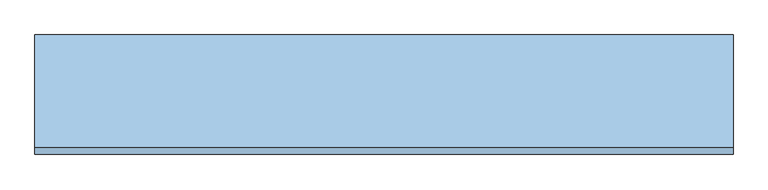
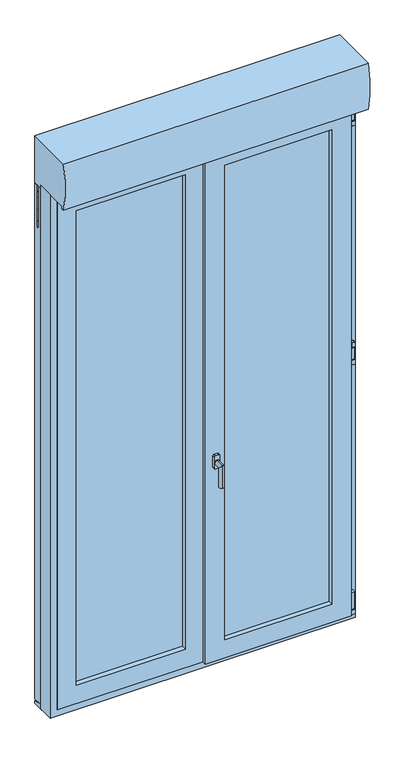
"""IFC4 building model written with IfcOpenShell, lengths in millimetres: window geometry, 23. PF1 + Fixe à G ENR PVC-ALU : 260X236 (LXH) cm."""

from ifc_helpers import new_model, si_unit, point, frame, frame_2d, origin, place, context, project, spatial, polyline, circle_curve, ellipse_curve, trimmed, segment, composite_curve, outline, extrude, faceted_brep, source, transform, mapped, element, save
from ifc_brep_helpers import plane_surface, cylinder_surface, advanced_brep


def window_ddca230f(model_context):
    return source(origin(), model_context, "Body", "SolidModel", [
        extrude(outline(composite_curve([segment(polyline([(1233.7215382, 626.56), (1233.7215382, 641.56), (1251.7279213, 641.56)]), True, "CONTINUOUS"), segment(trimmed(circle_curve(frame_2d((1251.7279213, 639.5663831)), 1.9936169), [point((1251.7279213, 641.56))], [point((1253.7215382, 639.5663831))], False, "CARTESIAN"), True, "CONTINUOUS"), segment(polyline([(1253.7215382, 639.5663831), (1253.7215382, 628.5276754)]), True, "CONTINUOUS"), segment(trimmed(circle_curve(frame_2d((1251.7538628, 628.5276754)), 1.9676754), [point((1253.7215382, 628.5276754))], [point((1251.7538628, 626.56))], False, "CARTESIAN"), True, "CONTINUOUS"), segment(polyline([(1251.7538628, 626.56), (1233.7215382, 626.56)]), True, "CONTINUOUS")], self_intersect=False)), frame((0.0, -115.0338923, 0.0), z_axis=(0.0, 1.0, 0.0), x_axis=(0.0, 0.0, 1.0)), (0.0, 0.0, 1.0), 15.0),
        extrude(outline(composite_curve([segment(trimmed(circle_curve(frame_2d((634.2805562, -107.5434807)), 5.0), [point((629.2805562, -107.5434807))], [point((639.2805562, -107.5434807))], False, "CARTESIAN"), True, "CONTINUOUS"), segment(trimmed(circle_curve(frame_2d((634.2805562, -107.5434807)), 5.0), [point((639.2805562, -107.5434807))], [point((629.2805562, -107.5434807))], False, "CARTESIAN"), True, "CONTINUOUS")], self_intersect=False)), frame((0.0, 0.0, 1173.7215382), z_axis=(0.0, 0.0, 1.0), x_axis=(1.0, 0.0, 0.0)), (0.0, 0.0, 1.0), 60.0),
        extrude(outline(composite_curve([segment(polyline([(621.56, -100.0434807), (639.6018237, -100.0434807)]), True, "CONTINUOUS"), segment(trimmed(circle_curve(frame_2d((639.6018237, -102.001657)), 1.9581763), [point((639.6018237, -100.0434807))], [point((641.56, -102.001657))], False, "CARTESIAN"), True, "CONTINUOUS"), segment(polyline([(641.56, -102.001657), (641.56, -113.0253033)]), True, "CONTINUOUS"), segment(trimmed(circle_curve(frame_2d((639.5418225, -113.0253033)), 2.0181775), [point((641.56, -113.0253033))], [point((639.5418225, -115.0434807))], False, "CARTESIAN"), True, "CONTINUOUS"), segment(polyline([(639.5418225, -115.0434807), (621.56, -115.0434807), (621.56, -100.0434807)]), True, "CONTINUOUS")], self_intersect=False)), frame((0.0, 0.0, 1179.448), z_axis=(0.0, 0.0, 1.0), x_axis=(1.0, 0.0, 0.0)), (0.0, 0.0, 1.0), 50.0),
        extrude(outline(composite_curve([segment(polyline([(1174.448, 641.7805562), (1174.448, 626.7805562), (1156.4572498, 626.7805562)]), True, "CONTINUOUS"), segment(trimmed(circle_curve(frame_2d((1156.4572498, 628.7898059)), 2.0092498), [point((1156.4572498, 626.7805562))], [point((1154.448, 628.7898059))], False, "CARTESIAN"), True, "CONTINUOUS"), segment(polyline([(1154.448, 628.7898059), (1154.448, 640.1303507)]), True, "CONTINUOUS"), segment(trimmed(circle_curve(frame_2d((1156.4216694, 639.8068867)), 2.0), [point((1154.448, 640.1303507))], [point((1156.0982054, 641.7805562))], False, "CARTESIAN"), True, "CONTINUOUS"), segment(polyline([(1156.0982054, 641.7805562), (1174.448, 641.7805562)]), True, "CONTINUOUS")], self_intersect=False)), frame((0.0, -115.0338923, 0.0), z_axis=(0.0, 1.0, 0.0), x_axis=(0.0, 0.0, 1.0)), (0.0, 0.0, 1.0), 15.0),
        extrude(outline(composite_curve([segment(polyline([(2310.8255382, 626.56), (2310.8255382, 641.56), (2328.8319213, 641.56)]), True, "CONTINUOUS"), segment(trimmed(circle_curve(frame_2d((2328.8319213, 639.5663831)), 1.9936169), [point((2328.8319213, 641.56))], [point((2330.8255382, 639.5663831))], False, "CARTESIAN"), True, "CONTINUOUS"), segment(polyline([(2330.8255382, 639.5663831), (2330.8255382, 628.5276754)]), True, "CONTINUOUS"), segment(trimmed(circle_curve(frame_2d((2328.8578628, 628.5276754)), 1.9676754), [point((2330.8255382, 628.5276754))], [point((2328.8578628, 626.56))], False, "CARTESIAN"), True, "CONTINUOUS"), segment(polyline([(2328.8578628, 626.56), (2310.8255382, 626.56)]), True, "CONTINUOUS")], self_intersect=False)), frame((0.0, -115.0338923, 0.0), z_axis=(0.0, 1.0, 0.0), x_axis=(0.0, 0.0, 1.0)), (0.0, 0.0, 1.0), 15.0),
        extrude(outline(composite_curve([segment(trimmed(circle_curve(frame_2d((634.2805562, -107.5434807)), 5.0), [point((629.2805562, -107.5434807))], [point((639.2805562, -107.5434807))], False, "CARTESIAN"), True, "CONTINUOUS"), segment(trimmed(circle_curve(frame_2d((634.2805562, -107.5434807)), 5.0), [point((639.2805562, -107.5434807))], [point((629.2805562, -107.5434807))], False, "CARTESIAN"), True, "CONTINUOUS")], self_intersect=False)), frame((0.0, 0.0, 2250.8255382), z_axis=(0.0, 0.0, 1.0), x_axis=(1.0, 0.0, 0.0)), (0.0, 0.0, 1.0), 60.0),
        extrude(outline(composite_curve([segment(polyline([(621.56, -100.0434807), (639.6018237, -100.0434807)]), True, "CONTINUOUS"), segment(trimmed(circle_curve(frame_2d((639.6018237, -102.001657)), 1.9581763), [point((639.6018237, -100.0434807))], [point((641.56, -102.001657))], False, "CARTESIAN"), True, "CONTINUOUS"), segment(polyline([(641.56, -102.001657), (641.56, -113.0253033)]), True, "CONTINUOUS"), segment(trimmed(circle_curve(frame_2d((639.5418225, -113.0253033)), 2.0181775), [point((641.56, -113.0253033))], [point((639.5418225, -115.0434807))], False, "CARTESIAN"), True, "CONTINUOUS"), segment(polyline([(639.5418225, -115.0434807), (621.56, -115.0434807), (621.56, -100.0434807)]), True, "CONTINUOUS")], self_intersect=False)), frame((0.0, 0.0, 2256.552), z_axis=(0.0, 0.0, 1.0), x_axis=(1.0, 0.0, 0.0)), (0.0, 0.0, 1.0), 50.0),
        extrude(outline(composite_curve([segment(polyline([(2251.552, 641.7805562), (2251.552, 626.7805562), (2233.5612498, 626.7805562)]), True, "CONTINUOUS"), segment(trimmed(circle_curve(frame_2d((2233.5612498, 628.7898059)), 2.0092498), [point((2233.5612498, 626.7805562))], [point((2231.552, 628.7898059))], False, "CARTESIAN"), True, "CONTINUOUS"), segment(polyline([(2231.552, 628.7898059), (2231.552, 640.1303507)]), True, "CONTINUOUS"), segment(trimmed(circle_curve(frame_2d((2233.5256694, 639.8068867)), 2.0), [point((2231.552, 640.1303507))], [point((2233.2022054, 641.7805562))], False, "CARTESIAN"), True, "CONTINUOUS"), segment(polyline([(2233.2022054, 641.7805562), (2251.552, 641.7805562)]), True, "CONTINUOUS")], self_intersect=False)), frame((0.0, -115.0338923, 0.0), z_axis=(0.0, 1.0, 0.0), x_axis=(0.0, 0.0, 1.0)), (0.0, 0.0, 1.0), 15.0),
        extrude(outline(composite_curve([segment(trimmed(circle_curve(frame_2d((634.2805562, -107.5434807)), 5.0), [point((629.2805562, -107.5434807))], [point((639.2805562, -107.5434807))], False, "CARTESIAN"), True, "CONTINUOUS"), segment(trimmed(circle_curve(frame_2d((634.2805562, -107.5434807)), 5.0), [point((639.2805562, -107.5434807))], [point((629.2805562, -107.5434807))], False, "CARTESIAN"), True, "CONTINUOUS")], self_intersect=False)), frame((0.0, 0.0, 48.448), z_axis=(0.0, 0.0, 1.0), x_axis=(1.0, 0.0, 0.0)), (0.0, 0.0, 1.0), 5.0),
        extrude(outline(composite_curve([segment(polyline([(48.448, 641.7805562), (48.448, 626.7805562), (30.4572498, 626.7805562)]), True, "CONTINUOUS"), segment(trimmed(circle_curve(frame_2d((30.4572498, 628.7898059)), 2.0092498), [point((30.4572498, 626.7805562))], [point((28.448, 628.7898059))], False, "CARTESIAN"), True, "CONTINUOUS"), segment(polyline([(28.448, 628.7898059), (28.448, 640.1303507)]), True, "CONTINUOUS"), segment(trimmed(circle_curve(frame_2d((30.4216694, 639.8068867)), 2.0), [point((28.448, 640.1303507))], [point((30.0982054, 641.7805562))], False, "CARTESIAN"), True, "CONTINUOUS"), segment(polyline([(30.0982054, 641.7805562), (48.448, 641.7805562)]), True, "CONTINUOUS")], self_intersect=False)), frame((0.0, -115.0338923, 0.0), z_axis=(0.0, 1.0, 0.0), x_axis=(0.0, 0.0, 1.0)), (0.0, 0.0, 1.0), 15.0),
        extrude(outline(composite_curve([segment(polyline([(621.56, -100.0434807), (639.6018237, -100.0434807)]), True, "CONTINUOUS"), segment(trimmed(circle_curve(frame_2d((639.6018237, -102.001657)), 1.9581763), [point((639.6018237, -100.0434807))], [point((641.56, -102.001657))], False, "CARTESIAN"), True, "CONTINUOUS"), segment(polyline([(641.56, -102.001657), (641.56, -113.0253033)]), True, "CONTINUOUS"), segment(trimmed(circle_curve(frame_2d((639.5418225, -113.0253033)), 2.0181775), [point((641.56, -113.0253033))], [point((639.5418225, -115.0434807))], False, "CARTESIAN"), True, "CONTINUOUS"), segment(polyline([(639.5418225, -115.0434807), (621.56, -115.0434807), (621.56, -100.0434807)]), True, "CONTINUOUS")], self_intersect=False)), frame((0.0, 0.0, 53.448), z_axis=(0.0, 0.0, 1.0), x_axis=(1.0, 0.0, 0.0)), (0.0, 0.0, 1.0), 75.0),
        advanced_brep(
        [(51.5, -129.3239543, 961.448), (36.5, -129.3239543, 961.448), (31.5, -129.3239543, 956.448), (31.5, -129.3239543, 906.448), (36.5, -129.3239543, 901.448), (51.5, -129.3239543, 901.448), (56.5, -129.3239543, 906.448), (56.5, -129.3239543, 956.448), (44.2771873, -129.3239543, 939.2518349), (44.2771873, -129.3239543, 919.2518349), (51.5, -117.4674689, 961.448), (56.5, -117.4674689, 956.448), (56.5, -117.4674689, 906.448), (51.5, -117.4674689, 901.448), (36.5, -117.4674689, 901.448), (31.5, -117.4674689, 906.448), (31.5, -117.4674689, 956.448), (36.5, -117.4674689, 961.448), (44.2771873, -133.0531938, 919.2518349), (44.2771873, -133.0531938, 939.2518349), (44.2771873, -173.0531938, 939.2518349), (44.2771873, -153.0531938, 919.2518349), (44.2771873, -173.0531938, 839.2518349), (44.2771873, -153.0531938, 839.2518349)],
        [
            (0, 1),
            (1, 2, circle_curve(frame((36.5, -129.3239543, 956.448), z_axis=(0.0, -1.0, 0.0), x_axis=(-1.0, 0.0, 0.0)), 5.0)),
            (2, 3),
            (3, 4, circle_curve(frame((36.5, -129.3239543, 906.448), z_axis=(0.0, -1.0, 0.0), x_axis=(-1.0, 0.0, 0.0)), 5.0)),
            (4, 5),
            (5, 6, circle_curve(frame((51.5, -129.3239543, 906.448), z_axis=(0.0, -1.0, 0.0), x_axis=(-1.0, 0.0, 0.0)), 5.0)),
            (6, 7),
            (7, 0, circle_curve(frame((51.5, -129.3239543, 956.448), z_axis=(0.0, -1.0, 0.0), x_axis=(-1.0, 0.0, 0.0)), 5.0)),
            (8, 9, circle_curve(frame((44.2771873, -129.3239543, 929.2518349), z_axis=(0.0, 1.0, 0.0), x_axis=(0.0, 0.0, -1.0)), 10.0)),
            (9, 8, circle_curve(frame((44.2771873, -129.3239543, 929.2518349), z_axis=(0.0, 1.0, 0.0), x_axis=(0.0, 0.0, -1.0)), 10.0)),
            (10, 11, circle_curve(frame((51.5, -117.4674689, 956.448), z_axis=(0.0, 1.0, 0.0), x_axis=(-1.0, 0.0, 0.0)), 5.0)),
            (11, 12),
            (12, 13, circle_curve(frame((51.5, -117.4674689, 906.448), z_axis=(0.0, 1.0, 0.0), x_axis=(-1.0, 0.0, 0.0)), 5.0)),
            (13, 14),
            (14, 15, circle_curve(frame((36.5, -117.4674689, 906.448), z_axis=(0.0, 1.0, 0.0), x_axis=(-1.0, 0.0, 0.0)), 5.0)),
            (15, 16),
            (16, 17, circle_curve(frame((36.5, -117.4674689, 956.448), z_axis=(0.0, 1.0, 0.0), x_axis=(-1.0, 0.0, 0.0)), 5.0)),
            (17, 10),
            (7, 11),
            (10, 0),
            (6, 12),
            (5, 13),
            (4, 14),
            (3, 15),
            (2, 16),
            (1, 17),
            (18, 19, circle_curve(frame((44.2771873, -133.0531938, 929.2518349), z_axis=(0.0, -1.0, 0.0), x_axis=(0.0, 0.0, -1.0)), 10.0)),
            (19, 20),
            (20, 21, ellipse_curve(frame((44.2771873, -163.0531938, 929.2518349), z_axis=(0.0, 0.7071067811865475, 0.7071067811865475), x_axis=(0.0, 0.7071067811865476, -0.7071067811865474)), 14.1421356, 10.0)),
            (21, 18),
            (19, 18, circle_curve(frame((44.2771873, -133.0531938, 929.2518349), z_axis=(0.0, -1.0, 0.0), x_axis=(0.0, 0.0, -1.0)), 10.0)),
            (21, 20, ellipse_curve(frame((44.2771873, -163.0531938, 929.2518349), z_axis=(0.0, 0.7071067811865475, 0.7071067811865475), x_axis=(0.0, 0.7071067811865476, -0.7071067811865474)), 14.1421356, 10.0)),
            (22, 23, circle_curve(frame((44.2771873, -163.0531938, 839.2518349), z_axis=(0.0, 0.0, -1.0), x_axis=(0.0, 1.0, 0.0)), 10.0)),
            (23, 22, circle_curve(frame((44.2771873, -163.0531938, 839.2518349), z_axis=(0.0, 0.0, -1.0), x_axis=(0.0, 1.0, 0.0)), 10.0)),
            (20, 22),
            (23, 21),
            (18, 9),
            (8, 19),
        ],
        [
            plane_surface(frame((46.5, -129.3239543, 956.448), z_axis=(0.0, -1.0, 0.0), x_axis=(0.0, 0.0, -1.0))),
            plane_surface(frame((46.5, -117.4674689, 956.448), z_axis=(0.0, 1.0, 0.0), x_axis=(0.0, 0.0, 1.0))),
            cylinder_surface(frame((51.5, -129.3239543, 956.448), z_axis=(0.0, 1.0, 0.0), x_axis=(-1.0, 0.0, 0.0)), 5.0),
            plane_surface(frame((56.5, -117.4674689, 956.448), z_axis=(1.0, 0.0, 0.0), x_axis=(0.0, -1.0, 0.0))),
            cylinder_surface(frame((51.5, -129.3239543, 906.448), z_axis=(0.0, 1.0, 0.0), x_axis=(-1.0, 0.0, 0.0)), 5.0),
            plane_surface(frame((51.5, -117.4674689, 901.448), z_axis=(0.0, 0.0, -1.0), x_axis=(0.0, -1.0, 0.0))),
            cylinder_surface(frame((36.5, -129.3239543, 906.448), z_axis=(0.0, 1.0, 0.0), x_axis=(-1.0, 0.0, 0.0)), 5.0),
            plane_surface(frame((31.5, -117.4674689, 906.448), z_axis=(-1.0, 0.0, 0.0), x_axis=(0.0, -1.0, 0.0))),
            cylinder_surface(frame((36.5, -129.3239543, 956.448), z_axis=(0.0, 1.0, 0.0), x_axis=(-1.0, 0.0, 0.0)), 5.0),
            plane_surface(frame((36.5, -117.4674689, 961.448), z_axis=(0.0, 0.0, 1.0), x_axis=(0.0, -1.0, 0.0))),
            cylinder_surface(frame((44.2771873, -133.0531938, 929.2518349), z_axis=(0.0, 1.0, 0.0), x_axis=(0.0, 0.0, -1.0)), 10.0),
            plane_surface(frame((56.5, -163.0531938, 839.2518349), z_axis=(0.0, 0.0, -1.0), x_axis=(1.0, 0.0, 0.0))),
            cylinder_surface(frame((44.2771873, -163.0531938, 929.2518349), z_axis=(0.0, 0.0, 1.0), x_axis=(0.0, 1.0, 0.0)), 10.0),
            cylinder_surface(frame((44.2771873, -129.3239543, 929.2518349), z_axis=(0.0, 1.0, 0.0), x_axis=(0.0, 0.0, -1.0)), 10.0),
        ],
        [
            (0, [[1, 2, 3, 4, 5, 6, 7, 8], [9, 10]]),
            (1, [[11, 12, 13, 14, 15, 16, 17, 18]]),
            (2, [[-8, 19, -11, 20]]),
            (3, [[-7, 21, -12, -19]]),
            (4, [[-6, 22, -13, -21]]),
            (5, [[-5, 23, -14, -22]]),
            (6, [[-4, 24, -15, -23]]),
            (7, [[-3, 25, -16, -24]]),
            (8, [[-2, 26, -17, -25]]),
            (9, [[-1, -20, -18, -26]]),
            (10, [[27, 28, 29, 30]]),
            (10, [[-28, 31, -30, 32]]),
            (11, [[33, 34]]),
            (12, [[-29, 35, -34, 36]]),
            (12, [[-32, -36, -33, -35]]),
            (13, [[-27, 37, -9, 38]]),
            (13, [[-31, -38, -10, -37]]),
        ],
    ),
        faceted_brep([(-650.0, -100.02, 2360.0), (-650.0, -28.9, 2360.0), (-650.0, -28.9, 0.0), (-650.0, -100.02, 0.0), (650.0, -28.9, 2360.0), (650.0, -28.9, 0.0), (-592.0983858, -28.9, 57.9016142), (592.0983858, -28.9, 57.9016142), (592.0983858, -28.9, 2302.0983858), (-592.0983858, -28.9, 2302.0983858), (650.0, -100.02, 0.0), (650.0, -100.02, 2360.0), (-613.424, -100.02, 2323.424), (613.424, -100.02, 2323.424), (613.424, -100.02, 36.576), (-613.424, -100.02, 36.576), (-613.424, -44.648, 2323.424), (-613.424, -44.648, 36.576), (613.424, -44.648, 36.576), (613.424, -44.648, 2323.424), (-592.0983858, -44.648, 2302.0983858), (592.0983858, -44.648, 2302.0983858), (592.0983858, -44.648, 57.9016142), (-592.0983858, -44.648, 57.9016142)], [[[0, 1, 2, 3]], [[1, 4, 5, 2], [6, 7, 8, 9]], [[3, 2, 5, 10]], [[3, 10, 11, 0], [12, 13, 14, 15]], [[16, 12, 15, 17]], [[17, 15, 14, 18]], [[17, 18, 19, 16], [20, 21, 22, 23]], [[9, 20, 23, 6]], [[6, 23, 22, 7]], [[10, 5, 4, 11]], [[18, 14, 13, 19]], [[7, 22, 21, 8]], [[11, 4, 1, 0]], [[19, 13, 12, 16]], [[8, 21, 20, 9]]]),
        extrude(outline(polyline([(35.0045299, -28.9), (35.0045299, -44.648), (20.324, -44.648), (20.324, -100.0), (8.132, -100.0), (8.132, -44.648), (-21.3216142, -44.648), (-21.3216142, -28.9), (35.0045299, -28.9)])), frame((0.0, 0.0, 57.9016142), z_axis=(0.0, 0.0, 1.0), x_axis=(1.0, 0.0, 0.0)), (0.0, 0.0, 1.0), 2244.1),
        faceted_brep([(-21.2576142, -28.9, 2302.0983858), (-21.2576142, -44.648, 2302.0983858), (-21.2576142, -44.648, 57.9016142), (-21.2576142, -28.9, 57.9016142), (8.196, -44.648, 28.448), (-621.56, -44.648, 28.448), (-621.56, -44.648, 2331.552), (8.196, -44.648, 2331.552), (-592.1063858, -44.648, 2302.0983858), (-592.1063858, -44.648, 57.9016142), (-592.1063858, -28.9, 57.9016142), (-592.1063858, -28.9, 2302.0983858), (-73.8319508, -28.9, 2249.5240492), (-539.5320492, -28.9, 2249.5240492), (-539.5320492, -28.9, 110.4759508), (-73.8319508, -28.9, 110.4759508), (-539.5320492, -50.2048765, 110.4759508), (-539.5320492, -50.2048765, 2249.5240492), (-73.8319508, -50.2048765, 110.4759508), (-73.8319508, -50.2048765, 2249.5240492), (8.196, -100.963906, 28.448), (-621.56, -100.963906, 28.448), (-621.56, -100.963906, 2331.552), (8.196, -100.963906, 2331.552), (-73.8319508, -100.963906, 110.4759508), (-539.5320492, -100.963906, 110.4759508), (-539.5320492, -100.963906, 2249.5240492), (-73.8319508, -100.963906, 2249.5240492), (-73.8319508, -78.213906, 110.4759508), (-539.5320492, -78.213906, 110.4759508), (-539.5320492, -78.213906, 2249.5240492), (-73.8319508, -78.213906, 2249.5240492), (-59.9384883, -50.2048765, 2263.4175117), (-553.4255117, -50.2048765, 2263.4175117), (-553.4255117, -50.2048765, 96.5824883), (-59.9384883, -50.2048765, 96.5824883), (-59.9384883, -54.213906, 2263.4175117), (-59.9384883, -54.213906, 96.5824883), (-553.4255117, -54.213906, 96.5824883), (-553.4255117, -54.213906, 2263.4175117), (-73.8319508, -54.213906, 2249.5240492), (-539.5320492, -54.213906, 2249.5240492), (-539.5320492, -54.213906, 110.4759508), (-73.8319508, -54.213906, 110.4759508), (-59.9384883, -78.213906, 2263.4175117), (-59.9384883, -74.213906, 2263.4175117), (-59.9384883, -74.213906, 96.5824883), (-59.9384883, -78.213906, 96.5824883), (-553.4255117, -74.213906, 2263.4175117), (-553.4255117, -74.213906, 96.5824883), (-73.8319508, -74.213906, 110.4759508), (-539.5320492, -74.213906, 110.4759508), (-539.5320492, -74.213906, 2249.5240492), (-73.8319508, -74.213906, 2249.5240492), (-553.4255117, -78.213906, 96.5824883), (-553.4255117, -78.213906, 2263.4175117)], [[[0, 1, 2, 3]], [[4, 5, 6, 7], [1, 8, 9, 2]], [[3, 2, 9, 10]], [[3, 10, 11, 0], [12, 13, 14, 15]], [[10, 9, 8, 11]], [[16, 14, 13, 17]], [[18, 15, 14, 16]], [[19, 12, 15, 18]], [[4, 20, 21, 5]], [[5, 21, 22, 6]], [[23, 20, 4, 7]], [[23, 22, 21, 20], [24, 25, 26, 27]], [[24, 28, 29, 25]], [[25, 29, 30, 26]], [[27, 31, 28, 24]], [[32, 33, 34, 35], [18, 16, 17, 19]], [[36, 32, 35, 37]], [[37, 35, 34, 38]], [[37, 38, 39, 36], [40, 41, 42, 43]], [[44, 45, 46, 47]], [[45, 48, 49, 46], [50, 51, 52, 53]], [[47, 46, 49, 54]], [[47, 54, 55, 44], [31, 30, 29, 28]], [[38, 34, 33, 39]], [[54, 49, 48, 55]], [[51, 42, 41, 52]], [[50, 43, 42, 51]], [[53, 40, 43, 50]], [[11, 8, 1, 0]], [[6, 22, 23, 7]], [[17, 13, 12, 19]], [[39, 33, 32, 36]], [[55, 48, 45, 44]], [[52, 41, 40, 53]], [[26, 30, 31, 27]]]),
        faceted_brep([(0.004, -119.3239543, 28.448), (0.004, -100.0434807, 28.448), (621.56, -100.0434807, 28.448), (621.56, -119.3239543, 28.448), (621.56, -100.0434807, 2331.552), (621.56, -119.3239543, 2331.552), (0.004, -100.0434807, 2331.552), (601.24, -100.0434807, 2311.232), (20.324, -100.0434807, 2311.232), (20.324, -100.0434807, 48.768), (601.24, -100.0434807, 48.768), (0.004, -119.3239543, 2331.552), (539.3585043, -119.3239543, 110.6494957), (82.2054957, -119.3239543, 110.6494957), (82.2054957, -119.3239543, 2249.3505043), (539.3585043, -119.3239543, 2249.3505043), (82.2054957, -100.019954, 110.6494957), (539.3585043, -100.019954, 110.6494957), (539.3585043, -100.019954, 2249.3505043), (561.6166701, -100.019954, 88.3913299), (59.9473299, -100.019954, 88.3913299), (59.9473299, -100.019954, 2271.6086701), (561.6166701, -100.019954, 2271.6086701), (82.2054957, -100.019954, 2249.3505043), (59.9473299, -48.2039543, 88.3913299), (561.6166701, -48.2039543, 88.3913299), (561.6166701, -48.2039543, 2271.6086701), (592.1063858, -48.2039543, 57.9016142), (29.4576142, -48.2039543, 57.9016142), (29.4576142, -48.2039543, 2302.0983858), (592.1063858, -48.2039543, 2302.0983858), (59.9473299, -48.2039543, 2271.6086701), (29.4576142, -44.648, 57.9016142), (592.1063858, -44.648, 57.9016142), (592.1063858, -44.648, 2302.0983858), (601.24, -44.648, 48.768), (20.324, -44.648, 48.768), (20.324, -44.648, 2311.232), (601.24, -44.648, 2311.232), (29.4576142, -44.648, 2302.0983858)], [[[0, 1, 2, 3]], [[3, 2, 4, 5]], [[2, 1, 6, 4], [7, 8, 9, 10]], [[5, 11, 0, 3], [12, 13, 14, 15]], [[16, 13, 12, 17]], [[17, 12, 15, 18]], [[19, 20, 21, 22], [18, 23, 16, 17]], [[24, 20, 19, 25]], [[25, 19, 22, 26]], [[27, 28, 29, 30], [26, 31, 24, 25]], [[32, 28, 27, 33]], [[33, 27, 30, 34]], [[35, 36, 37, 38], [34, 39, 32, 33]], [[9, 36, 35, 10]], [[10, 35, 38, 7]], [[11, 6, 1, 0]], [[23, 14, 13, 16]], [[31, 21, 20, 24]], [[39, 29, 28, 32]], [[8, 37, 36, 9]], [[5, 4, 6, 11]], [[34, 30, 29, 39]], [[7, 38, 37, 8]], [[18, 15, 14, 23]], [[26, 22, 21, 31]]]),
        extrude(outline(polyline([(-553.4, -54.213906), (-553.4, -50.2048765), (-59.9, -50.2048765), (-59.9, -54.213906), (-553.4, -54.213906)])), frame((0.0, 0.0, 96.5824883), z_axis=(0.0, 0.0, 1.0), x_axis=(1.0, 0.0, 0.0)), (0.0, 0.0, 1.0), 2166.8350233),
        extrude(outline(polyline([(-553.4, -78.2229356), (-553.4, -74.213906), (-59.9, -74.213906), (-59.9, -78.2229356), (-553.4, -78.2229356)])), frame((0.0, 0.0, 96.5824883), z_axis=(0.0, 0.0, 1.0), x_axis=(1.0, 0.0, 0.0)), (0.0, 0.0, 1.0), 2166.8350233),
        extrude(outline(polyline([(553.4, -42.025765), (553.4, -45.9821328), (68.1, -45.9821328), (68.1, -42.025765), (553.4, -42.025765)])), frame((0.0, 0.0, 96.5824883), z_axis=(0.0, 0.0, 1.0), x_axis=(1.0, 0.0, 0.0)), (0.0, 0.0, 1.0), 2166.8350233),
        extrude(outline(polyline([(553.4, -96.019954), (553.4, -100.019954), (68.1, -100.019954), (68.1, -96.019954), (553.4, -96.019954)])), frame((0.0, 0.0, 96.5824883), z_axis=(0.0, 0.0, 1.0), x_axis=(1.0, 0.0, 0.0)), (0.0, 0.0, 1.0), 2166.8350233),
        extrude(outline(polyline([(553.4, -68.9786213), (553.4, -72.9786213), (68.1, -72.9786213), (68.1, -68.9786213), (553.4, -68.9786213)])), frame((0.0, 0.0, 96.5824883), z_axis=(0.0, 0.0, 1.0), x_axis=(1.0, 0.0, 0.0)), (0.0, 0.0, 1.0), 2166.8350233),
        faceted_brep([(561.6166701, -48.2039543, 2271.6086701), (561.6166701, -100.019954, 2271.6086701), (561.6166701, -100.019954, 88.3913299), (561.6166701, -48.2039543, 88.3913299), (59.9473299, -100.019954, 2271.6086701), (59.9473299, -100.019954, 88.3913299), (553.4255117, -100.019954, 2263.4175117), (553.4255117, -100.019954, 96.5824883), (68.1384883, -100.019954, 96.5824883), (68.1384883, -100.019954, 2263.4175117), (59.9473299, -48.2039543, 88.3913299), (35.0045299, -48.2039543, 2296.5514701), (35.0045299, -48.2039543, 63.4485299), (586.5594701, -48.2039543, 63.4485299), (586.5594701, -48.2039543, 2296.5514701), (59.9473299, -48.2039543, 2271.6086701), (586.5594701, -28.7475756, 2296.5514701), (586.5594701, -28.7475756, 63.4485299), (35.0045299, -28.7475756, 63.4485299), (35.0045299, -28.7475756, 2296.5514701), (86.2166614, -28.7475756, 2245.3393386), (86.2166614, -28.7475756, 114.6606614), (535.3473386, -28.7475756, 114.6606614), (535.3473386, -28.7475756, 2245.3393386), (535.3473386, -41.5821328, 2245.3393386), (535.3473386, -41.5821328, 114.6606614), (86.2166614, -41.5821328, 114.6606614), (68.1384883, -41.5821328, 2263.4175117), (68.1384883, -41.5821328, 96.5824883), (553.4255117, -41.5821328, 96.5824883), (553.4255117, -41.5821328, 2263.4175117), (86.2166614, -41.5821328, 2245.3393386), (536.2054041, -68.9786213, 2246.1974041), (536.2054041, -47.5821328, 2246.1974041), (536.2054041, -47.5821328, 113.8025959), (536.2054041, -68.9786213, 113.8025959), (553.4255117, -47.5821328, 2263.4175117), (553.4255117, -47.5821328, 96.5824883), (68.1384883, -47.5821328, 96.5824883), (68.1384883, -47.5821328, 2263.4175117), (85.3585959, -47.5821328, 2246.1974041), (85.3585959, -47.5821328, 113.8025959), (85.3585959, -68.9786213, 113.8025959), (68.1384883, -68.9786213, 2263.4175117), (68.1384883, -68.9786213, 96.5824883), (553.4255117, -68.9786213, 96.5824883), (553.4255117, -68.9786213, 2263.4175117), (85.3585959, -68.9786213, 2246.1974041), (539.5320492, -96.019954, 2249.5240492), (539.5320492, -72.9786213, 2249.5240492), (539.5320492, -72.9786213, 110.4759508), (539.5320492, -96.019954, 110.4759508), (553.4255117, -72.9786213, 2263.4175117), (553.4255117, -72.9786213, 96.5824883), (68.1384883, -72.9786213, 96.5824883), (68.1384883, -72.9786213, 2263.4175117), (82.0319508, -72.9786213, 2249.5240492), (82.0319508, -72.9786213, 110.4759508), (82.0319508, -96.019954, 110.4759508), (68.1384883, -96.019954, 2263.4175117), (68.1384883, -96.019954, 96.5824883), (553.4255117, -96.019954, 96.5824883), (553.4255117, -96.019954, 2263.4175117), (82.0319508, -96.019954, 2249.5240492)], [[[0, 1, 2, 3]], [[4, 5, 2, 1], [6, 7, 8, 9]], [[3, 2, 5, 10]], [[11, 12, 13, 14], [0, 3, 10, 15]], [[16, 14, 13, 17]], [[17, 13, 12, 18]], [[16, 17, 18, 19], [20, 21, 22, 23]], [[24, 23, 22, 25]], [[25, 22, 21, 26]], [[27, 28, 29, 30], [24, 25, 26, 31]], [[32, 33, 34, 35]], [[36, 37, 38, 39], [40, 41, 34, 33]], [[35, 34, 41, 42]], [[43, 44, 45, 46], [32, 35, 42, 47]], [[48, 49, 50, 51]], [[52, 53, 54, 55], [56, 57, 50, 49]], [[51, 50, 57, 58]], [[59, 60, 61, 62], [48, 51, 58, 63]], [[6, 62, 61, 7]], [[7, 61, 60, 8]], [[36, 30, 29, 37]], [[37, 29, 28, 38]], [[52, 46, 45, 53]], [[53, 45, 44, 54]], [[58, 57, 56, 63]], [[8, 60, 59, 9]], [[10, 5, 4, 15]], [[18, 12, 11, 19]], [[26, 21, 20, 31]], [[38, 28, 27, 39]], [[42, 41, 40, 47]], [[54, 44, 43, 55]], [[15, 4, 1, 0]], [[19, 11, 14, 16]], [[31, 20, 23, 24]], [[47, 40, 33, 32]], [[63, 56, 49, 48]], [[9, 59, 62, 6]], [[39, 27, 30, 36]], [[55, 43, 46, 52]]]),
        extrude(outline(composite_curve([segment(polyline([(-186.3991192, 2350.3409737), (-197.3316724, 2350.3409737)]), True, "CONTINUOUS"), segment(trimmed(circle_curve(frame_2d((189.1050523, 2453.6204869)), 400.0), [point((-197.3316724, 2350.3409737))], [point((-197.3316724, 2556.9))], False, "CARTESIAN"), True, "CONTINUOUS"), segment(polyline([(-197.3316724, 2556.9), (13.0999994, 2556.9), (13.0999994, 2346.0216226), (-4.9499979, 2346.0216226), (-4.9499979, 2344.2216225), (-2.7215215, 2344.2216225), (-2.7215215, 2319.9791617), (-4.9499979, 2319.9791617), (-4.9499979, 2318.1791616), (-2.7215215, 2318.1791616), (-2.7215215, 2293.9367008), (-4.9499979, 2293.9367008), (-4.9499979, 2292.1367006), (-2.7215215, 2292.1367006), (-2.7215215, 2267.8942398), (-4.9499979, 2267.8942398), (-4.9499979, 2266.0942397), (-2.7215215, 2266.0942397), (-2.7215215, 2241.8517789), (-4.9499979, 2241.8517789), (-4.9499979, 2240.0517788), (-2.7215215, 2240.0517788), (-2.7215215, 2215.809318), (-4.9499979, 2215.809318), (-4.9499979, 2214.0093179), (-2.7215215, 2214.0093179), (-2.7215215, 2189.7668571), (-4.9499979, 2189.7668571), (-4.9499979, 2187.966857), (-2.7215215, 2187.966857), (-2.7215215, 2163.7243961), (-4.9499979, 2163.7243961), (-4.9499979, 2161.9243963), (-3.044091, 2161.9243963), (-3.044091, 2158.977424), (-6.4, 2155.6232688), (-9.8999992, 2158.9774251), (-9.8999992, 2161.9243963), (-7.7499979, 2161.9243963), (-7.7499979, 2163.7243961), (-9.9999979, 2163.7243961), (-9.9999979, 2187.9668572), (-7.7499979, 2187.9668572), (-7.7499979, 2189.7668571), (-9.9999979, 2189.7668571), (-9.9999979, 2214.0093181), (-7.7499979, 2214.0093181), (-7.7499979, 2215.809318), (-9.9999979, 2215.809318), (-9.9999979, 2240.051779), (-7.7499979, 2240.051779), (-7.7499979, 2241.8517789), (-9.9999979, 2241.8517789), (-9.9999979, 2266.09424), (-7.7499979, 2266.09424), (-7.7499979, 2267.8942398), (-9.9999979, 2267.8942398), (-9.9999979, 2292.1367009), (-7.7499979, 2292.1367009), (-7.7499979, 2293.9367008), (-9.9999979, 2293.9367008), (-9.9999979, 2318.1791618), (-7.7499979, 2318.1791618), (-7.7499979, 2319.9791617), (-9.9999979, 2319.9791617), (-9.9999979, 2344.2216227), (-7.7499979, 2344.2216227), (-7.7499979, 2346.0216226), (-28.9, 2346.0216226), (-28.9, 2360.0), (-186.3991192, 2360.0), (-186.3991192, 2350.3409737)]), True, "CONTINUOUS")], self_intersect=False)), frame((-650.0, 0.0, 0.0), z_axis=(1.0, 0.0, 0.0), x_axis=(0.0, 1.0, 0.0)), (0.0, 0.0, 1.0), 1300.0),
        extrude(outline(polyline([(13.1, 0.0), (-100.02, 0.0), (-100.02, 30.0), (-28.9, 30.0), (-28.9, 20.0), (13.1, 10.0), (13.1, 0.0)])), frame((-650.0, 0.0, 0.0), z_axis=(1.0, 0.0, 0.0), x_axis=(0.0, 1.0, 0.0)), (0.0, 0.0, 1.0), 1300.0),
        extrude(outline(polyline([(-649.0, 13.1), (-649.0, 2.1), (-629.0, 2.1), (-629.0, -0.9), (-649.0, -0.9), (-649.0, -11.9), (-629.0, -11.9), (-629.0, -14.9), (-649.0, -14.9), (-649.0, -28.9), (-650.0, -28.9), (-650.0, 13.1), (-649.0, 13.1)])), frame((0.0, 0.0, 20.0), z_axis=(0.0, 0.0, 1.0), x_axis=(1.0, 0.0, 0.0)), (0.0, 0.0, 1.0), 2326.0216226),
        extrude(outline(polyline([(649.0, 13.1), (650.0, 13.1), (650.0, -28.9), (649.0, -28.9), (649.0, -14.9), (629.0, -14.9), (629.0, -11.9), (649.0, -11.9), (649.0, -0.9), (629.0, -0.9), (629.0, 2.1), (649.0, 2.1), (649.0, 13.1)])), frame((0.0, 0.0, 20.0), z_axis=(0.0, 0.0, 1.0), x_axis=(1.0, 0.0, 0.0)), (0.0, 0.0, 1.0), 2326.0216226),
    ])


if __name__ == "__main__":
    model = new_model("IFC4")
    model_context = context("Model", 3, world=origin())
    ifc_project = project(units=[si_unit("LENGTHUNIT", "METRE", prefix="MILLI")], contexts=[model_context])
    site = spatial("IfcSite", under=ifc_project)
    building = spatial("IfcBuilding", under=site)
    placement = place(None, origin())
    window_shape = window_ddca230f(model_context)
    element("IfcWindow", 1, ObjectType="23. PF1 + Fixe à G ENR PVC-ALU : 260X236 (LXH) cm", at=placement, inside=building, context=model_context, shape_type="MappedRepresentation", body=[
        mapped(window_shape, transform((0.0, 0.0, 0.0), x_axis=(1.0, 0.0, 0.0), y_axis=(0.0, 1.0, 0.0), z_axis=(0.0, 0.0, 1.0))),
    ])
    save(model, "model.ifc")
